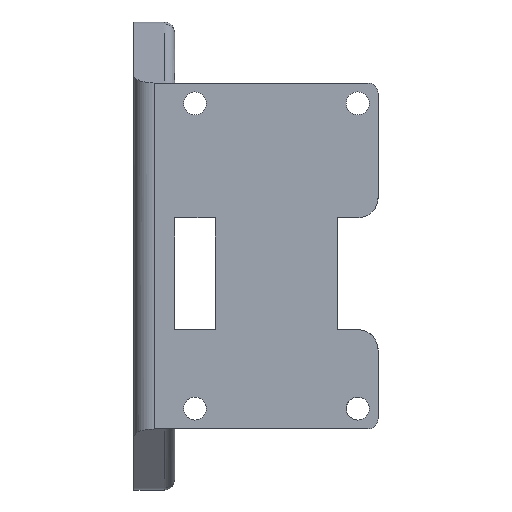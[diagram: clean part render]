
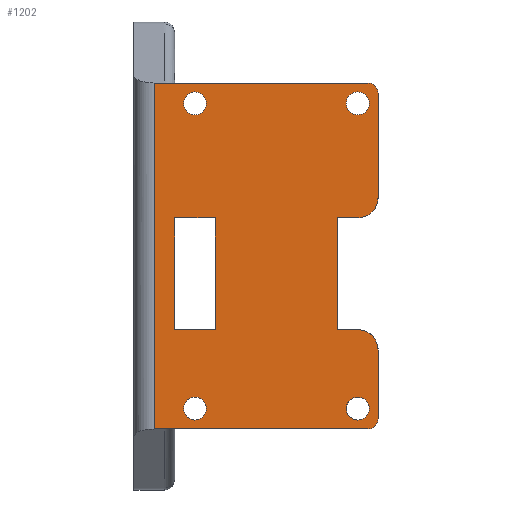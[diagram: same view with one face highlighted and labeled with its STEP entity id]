
A CAD part, left-side view. The second image highlights one B-rep face of the part: STEP entity #1202.
In plain terms, the highlighted planar face has unit normal (-1, 0, 0).
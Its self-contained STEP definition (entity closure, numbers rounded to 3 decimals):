
#38=FACE_BOUND('',#231,.T.);
#39=FACE_BOUND('',#232,.T.);
#40=FACE_BOUND('',#233,.T.);
#41=FACE_BOUND('',#234,.T.);
#42=FACE_BOUND('',#235,.T.);
#75=CIRCLE('',#1322,2.);
#76=CIRCLE('',#1324,1.);
#77=CIRCLE('',#1325,2.);
#78=CIRCLE('',#1326,1.);
#79=CIRCLE('',#1327,1.125);
#80=CIRCLE('',#1328,1.125);
#81=CIRCLE('',#1329,1.125);
#82=CIRCLE('',#1330,1.125);
#109=PLANE('',#1323);
#161=FACE_OUTER_BOUND('',#230,.T.);
#230=EDGE_LOOP('',(#956,#957,#958,#959,#960,#961,#962,#963,#964,#965,#966,
#967,#968,#969));
#231=EDGE_LOOP('',(#970,#971,#972,#973));
#232=EDGE_LOOP('',(#974));
#233=EDGE_LOOP('',(#975));
#234=EDGE_LOOP('',(#976));
#235=EDGE_LOOP('',(#977));
#271=LINE('',#1746,#370);
#277=LINE('',#1769,#376);
#284=LINE('',#1907,#383);
#305=LINE('',#2125,#404);
#315=LINE('',#2156,#414);
#326=LINE('',#2197,#425);
#327=LINE('',#2200,#426);
#328=LINE('',#2202,#427);
#329=LINE('',#2204,#428);
#330=LINE('',#2208,#429);
#331=LINE('',#2211,#430);
#332=LINE('',#2213,#431);
#333=LINE('',#2215,#432);
#334=LINE('',#2216,#433);
#370=VECTOR('',#1385,10.);
#376=VECTOR('',#1405,10.);
#383=VECTOR('',#1436,10.);
#404=VECTOR('',#1507,10.);
#414=VECTOR('',#1543,10.);
#425=VECTOR('',#1590,10.);
#426=VECTOR('',#1593,10.);
#427=VECTOR('',#1594,10.);
#428=VECTOR('',#1595,10.);
#429=VECTOR('',#1598,10.);
#430=VECTOR('',#1601,10.);
#431=VECTOR('',#1602,10.);
#432=VECTOR('',#1603,10.);
#433=VECTOR('',#1604,10.);
#488=VERTEX_POINT('',#1739);
#491=VERTEX_POINT('',#1744);
#501=VERTEX_POINT('',#1768);
#514=VERTEX_POINT('',#1904);
#515=VERTEX_POINT('',#1906);
#543=VERTEX_POINT('',#2122);
#544=VERTEX_POINT('',#2124);
#551=VERTEX_POINT('',#2146);
#563=VERTEX_POINT('',#2192);
#564=VERTEX_POINT('',#2196);
#565=VERTEX_POINT('',#2199);
#566=VERTEX_POINT('',#2201);
#567=VERTEX_POINT('',#2203);
#568=VERTEX_POINT('',#2205);
#569=VERTEX_POINT('',#2207);
#570=VERTEX_POINT('',#2209);
#571=VERTEX_POINT('',#2212);
#572=VERTEX_POINT('',#2214);
#573=VERTEX_POINT('',#2217);
#574=VERTEX_POINT('',#2219);
#575=VERTEX_POINT('',#2221);
#576=VERTEX_POINT('',#2223);
#603=EDGE_CURVE('',#491,#488,#271,.T.);
#614=EDGE_CURVE('',#501,#488,#277,.T.);
#632=EDGE_CURVE('',#515,#514,#284,.T.);
#675=EDGE_CURVE('',#543,#544,#305,.T.);
#691=EDGE_CURVE('',#551,#491,#315,.T.);
#710=EDGE_CURVE('',#563,#514,#75,.T.);
#711=EDGE_CURVE('',#551,#564,#326,.T.);
#712=EDGE_CURVE('',#515,#564,#76,.T.);
#713=EDGE_CURVE('',#563,#565,#327,.T.);
#714=EDGE_CURVE('',#565,#566,#328,.T.);
#715=EDGE_CURVE('',#566,#567,#329,.T.);
#716=EDGE_CURVE('',#568,#567,#77,.T.);
#717=EDGE_CURVE('',#568,#569,#330,.T.);
#718=EDGE_CURVE('',#570,#569,#78,.T.);
#719=EDGE_CURVE('',#570,#501,#331,.T.);
#720=EDGE_CURVE('',#571,#543,#332,.T.);
#721=EDGE_CURVE('',#572,#571,#333,.T.);
#722=EDGE_CURVE('',#544,#572,#334,.T.);
#723=EDGE_CURVE('',#573,#573,#79,.T.);
#724=EDGE_CURVE('',#574,#574,#80,.T.);
#725=EDGE_CURVE('',#575,#575,#81,.T.);
#726=EDGE_CURVE('',#576,#576,#82,.T.);
#956=ORIENTED_EDGE('',*,*,#603,.F.);
#957=ORIENTED_EDGE('',*,*,#691,.F.);
#958=ORIENTED_EDGE('',*,*,#711,.T.);
#959=ORIENTED_EDGE('',*,*,#712,.F.);
#960=ORIENTED_EDGE('',*,*,#632,.T.);
#961=ORIENTED_EDGE('',*,*,#710,.F.);
#962=ORIENTED_EDGE('',*,*,#713,.T.);
#963=ORIENTED_EDGE('',*,*,#714,.T.);
#964=ORIENTED_EDGE('',*,*,#715,.T.);
#965=ORIENTED_EDGE('',*,*,#716,.F.);
#966=ORIENTED_EDGE('',*,*,#717,.T.);
#967=ORIENTED_EDGE('',*,*,#718,.F.);
#968=ORIENTED_EDGE('',*,*,#719,.T.);
#969=ORIENTED_EDGE('',*,*,#614,.T.);
#970=ORIENTED_EDGE('',*,*,#720,.F.);
#971=ORIENTED_EDGE('',*,*,#721,.F.);
#972=ORIENTED_EDGE('',*,*,#722,.F.);
#973=ORIENTED_EDGE('',*,*,#675,.F.);
#974=ORIENTED_EDGE('',*,*,#723,.F.);
#975=ORIENTED_EDGE('',*,*,#724,.F.);
#976=ORIENTED_EDGE('',*,*,#725,.F.);
#977=ORIENTED_EDGE('',*,*,#726,.F.);
#1202=ADVANCED_FACE('',(#161,#38,#39,#40,#41,#42),#109,.F.);
#1322=AXIS2_PLACEMENT_3D('',#2194,#1586,#1587);
#1323=AXIS2_PLACEMENT_3D('',#2195,#1588,#1589);
#1324=AXIS2_PLACEMENT_3D('',#2198,#1591,#1592);
#1325=AXIS2_PLACEMENT_3D('',#2206,#1596,#1597);
#1326=AXIS2_PLACEMENT_3D('',#2210,#1599,#1600);
#1327=AXIS2_PLACEMENT_3D('',#2218,#1605,#1606);
#1328=AXIS2_PLACEMENT_3D('',#2220,#1607,#1608);
#1329=AXIS2_PLACEMENT_3D('',#2222,#1609,#1610);
#1330=AXIS2_PLACEMENT_3D('',#2224,#1611,#1612);
#1385=DIRECTION('',(0.,0.,1.));
#1405=DIRECTION('',(0.,1.,0.));
#1436=DIRECTION('',(0.,0.,1.));
#1507=DIRECTION('',(0.,-1.,0.));
#1543=DIRECTION('',(0.,1.,0.));
#1586=DIRECTION('center_axis',(1.,0.,0.));
#1587=DIRECTION('ref_axis',(0.,-0.707,0.707));
#1588=DIRECTION('center_axis',(1.,0.,0.));
#1589=DIRECTION('ref_axis',(0.,1.,0.));
#1590=DIRECTION('',(0.,-1.,0.));
#1591=DIRECTION('center_axis',(1.,0.,0.));
#1592=DIRECTION('ref_axis',(0.,-0.707,-0.707));
#1593=DIRECTION('',(0.,1.,0.));
#1594=DIRECTION('',(0.,0.,1.));
#1595=DIRECTION('',(0.,-1.,0.));
#1596=DIRECTION('center_axis',(1.,0.,0.));
#1597=DIRECTION('ref_axis',(0.,-0.707,-0.707));
#1598=DIRECTION('',(0.,0.,1.));
#1599=DIRECTION('center_axis',(1.,0.,0.));
#1600=DIRECTION('ref_axis',(0.,-0.707,0.707));
#1601=DIRECTION('',(0.,1.,0.));
#1602=DIRECTION('',(0.,0.,-1.));
#1603=DIRECTION('',(0.,1.,0.));
#1604=DIRECTION('',(0.,0.,1.));
#1605=DIRECTION('center_axis',(-1.,0.,0.));
#1606=DIRECTION('ref_axis',(0.,1.,0.));
#1607=DIRECTION('center_axis',(-1.,0.,0.));
#1608=DIRECTION('ref_axis',(0.,1.,0.));
#1609=DIRECTION('center_axis',(-1.,0.,0.));
#1610=DIRECTION('ref_axis',(0.,1.,0.));
#1611=DIRECTION('center_axis',(-1.,0.,0.));
#1612=DIRECTION('ref_axis',(0.,1.,0.));
#1739=CARTESIAN_POINT('',(0.,12.,17.));
#1744=CARTESIAN_POINT('',(0.,12.,-17.));
#1746=CARTESIAN_POINT('',(0.,12.,0.));
#1768=CARTESIAN_POINT('',(0.,11.,17.));
#1769=CARTESIAN_POINT('',(0.,10.,17.));
#1904=CARTESIAN_POINT('',(0.,-10.,-9.25));
#1906=CARTESIAN_POINT('',(0.,-10.,-16.));
#1907=CARTESIAN_POINT('',(0.,-10.,-17.));
#2122=CARTESIAN_POINT('',(0.,10.,-7.25));
#2124=CARTESIAN_POINT('',(0.,6.,-7.25));
#2125=CARTESIAN_POINT('',(0.,10.,-7.25));
#2146=CARTESIAN_POINT('',(0.,11.,-17.));
#2156=CARTESIAN_POINT('',(0.,10.,-17.));
#2192=CARTESIAN_POINT('',(0.,-8.,-7.25));
#2194=CARTESIAN_POINT('Origin',(0.,-8.,-9.25));
#2195=CARTESIAN_POINT('Origin',(0.,0.,0.));
#2196=CARTESIAN_POINT('',(0.,-9.,-17.));
#2197=CARTESIAN_POINT('',(0.,10.,-17.));
#2198=CARTESIAN_POINT('Origin',(0.,-9.,-16.));
#2199=CARTESIAN_POINT('',(0.,-6.,-7.25));
#2200=CARTESIAN_POINT('',(0.,-10.,-7.25));
#2201=CARTESIAN_POINT('',(0.,-6.,3.75));
#2202=CARTESIAN_POINT('',(0.,-6.,-7.25));
#2203=CARTESIAN_POINT('',(0.,-8.,3.75));
#2204=CARTESIAN_POINT('',(0.,-6.,3.75));
#2205=CARTESIAN_POINT('',(0.,-10.,5.75));
#2206=CARTESIAN_POINT('Origin',(0.,-8.,5.75));
#2207=CARTESIAN_POINT('',(0.,-10.,16.));
#2208=CARTESIAN_POINT('',(0.,-10.,-17.));
#2209=CARTESIAN_POINT('',(0.,-9.,17.));
#2210=CARTESIAN_POINT('Origin',(0.,-9.,16.));
#2211=CARTESIAN_POINT('',(0.,10.,17.));
#2212=CARTESIAN_POINT('',(0.,10.,3.75));
#2213=CARTESIAN_POINT('',(0.,10.,17.));
#2214=CARTESIAN_POINT('',(0.,6.,3.75));
#2215=CARTESIAN_POINT('',(0.,6.,3.75));
#2216=CARTESIAN_POINT('',(0.,6.,-7.25));
#2217=CARTESIAN_POINT('',(0.,6.875,15.));
#2218=CARTESIAN_POINT('Origin',(0.,8.,15.));
#2219=CARTESIAN_POINT('',(0.,-9.125,-15.));
#2220=CARTESIAN_POINT('Origin',(0.,-8.,-15.));
#2221=CARTESIAN_POINT('',(0.,-9.125,15.));
#2222=CARTESIAN_POINT('Origin',(0.,-8.,15.));
#2223=CARTESIAN_POINT('',(0.,6.875,-15.));
#2224=CARTESIAN_POINT('Origin',(0.,8.,-15.));
